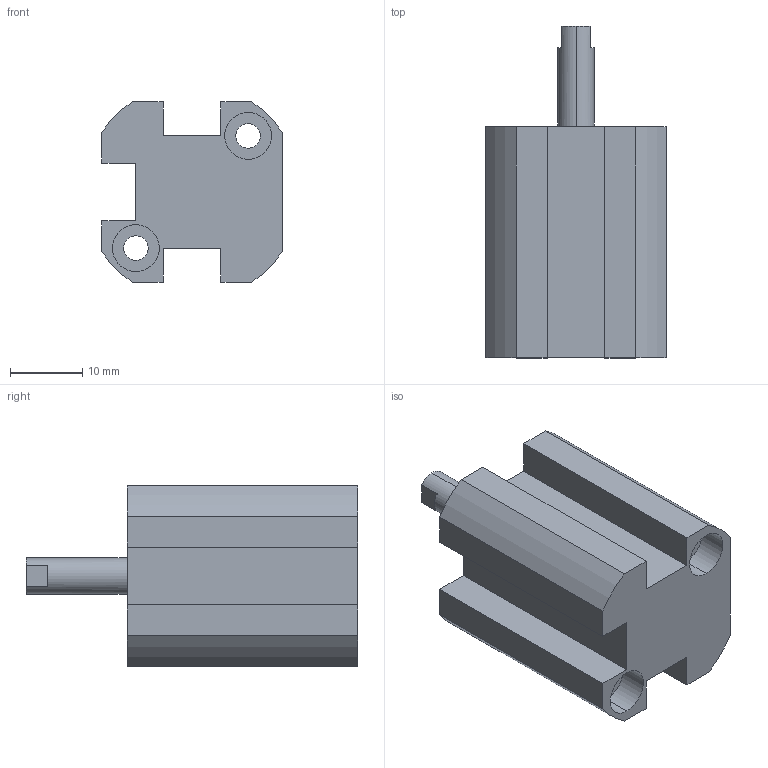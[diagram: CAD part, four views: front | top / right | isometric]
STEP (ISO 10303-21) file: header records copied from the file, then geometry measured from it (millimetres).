
FILE_DESCRIPTION (( 'STEP AP203' ), '1' );
FILE_NAME ('XC#0-10D-10.STEP', '2016-05-23T06:35:32', ( '' ), ( '' ), 'SwSTEP 2.0', 'SolidWorks 2014', '' );
FILE_SCHEMA (( 'CONFIG_CONTROL_DESIGN' ));
Length unit declared in the file: millimetre
Products named in the file (1): XC#0-10D-10
Bounding box: 25 x 46 x 25 mm (x, y, z)
Volume: 14324 mm3; surface area: 6129 mm2
Topology: 1 solids, 1 shells, 72 faces, 177 edges, 116 vertices
Faces by surface type: cylinder 37, plane 33, cone 2
Entity records: 2227 total; most frequent: DIRECTION 400, CARTESIAN_POINT 364, ORIENTED_EDGE 350, EDGE_CURVE 175, AXIS2_PLACEMENT_3D 152, VERTEX_POINT 116, VECTOR 96, LINE 96
